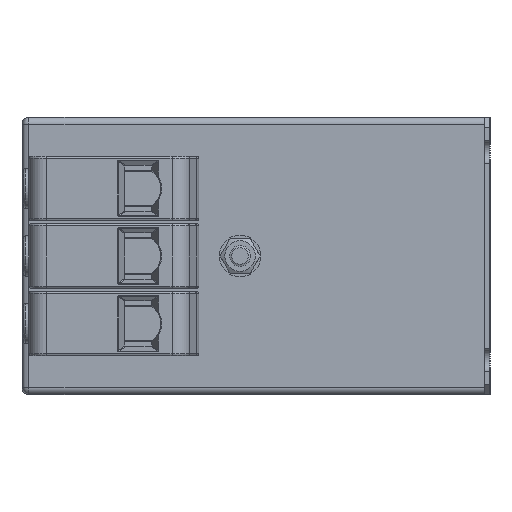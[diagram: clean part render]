
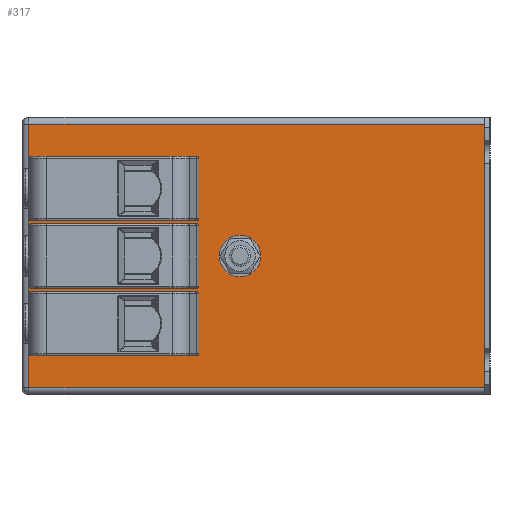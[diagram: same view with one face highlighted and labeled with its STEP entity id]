
A CAD part, left-side view. The second image highlights one B-rep face of the part: STEP entity #317.
In plain terms, the highlighted planar face has unit normal (-1, 0, 0).
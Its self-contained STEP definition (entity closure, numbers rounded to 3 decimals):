
#158=CARTESIAN_POINT('',(-120.0,72.1,5.525));
#159=VERTEX_POINT('',#158);
#160=CARTESIAN_POINT('',(-120.0,72.1,0.));
#161=DIRECTION('',(1.0,0.0,0.0));
#162=DIRECTION('',(0.0,0.0,1.0));
#163=AXIS2_PLACEMENT_3D('',#160,#161,#162);
#164=CIRCLE('',#163,5.525);
#165=EDGE_CURVE('',#159,#159,#164,.T.);
#173=CARTESIAN_POINT('',(-120.0,135.,0.0));
#174=DIRECTION('',(-1.0,0.0,0.0));
#175=DIRECTION('',(0.0,-1.0,0.0));
#176=AXIS2_PLACEMENT_3D('',#173,#174,#175);
#177=PLANE('',#176);
#178=CARTESIAN_POINT('',(-120.0,133.0,38.0));
#179=VERTEX_POINT('',#178);
#180=CARTESIAN_POINT('',(-120.0,1.5,38.0));
#181=VERTEX_POINT('',#180);
#182=CARTESIAN_POINT('',(-120.0,133.0,38.0));
#183=DIRECTION('',(0.0,-1.0,0.0));
#184=VECTOR('',#183,131.5);
#185=LINE('',#182,#184);
#186=EDGE_CURVE('',#179,#181,#185,.T.);
#187=ORIENTED_EDGE('',*,*,#186,.F.);
#188=CARTESIAN_POINT('',(-120.0,133.0,-38.0));
#189=VERTEX_POINT('',#188);
#190=CARTESIAN_POINT('',(-120.0,133.0,-38.0));
#191=DIRECTION('',(0.0,0.0,1.0));
#192=VECTOR('',#191,76.0);
#193=LINE('',#190,#192);
#194=EDGE_CURVE('',#189,#179,#193,.T.);
#195=ORIENTED_EDGE('',*,*,#194,.F.);
#196=CARTESIAN_POINT('',(-120.0,1.5,-38.0));
#197=VERTEX_POINT('',#196);
#198=CARTESIAN_POINT('',(-120.0,1.5,-38.0));
#199=DIRECTION('',(0.0,1.0,0.0));
#200=VECTOR('',#199,131.5);
#201=LINE('',#198,#200);
#202=EDGE_CURVE('',#197,#189,#201,.T.);
#203=ORIENTED_EDGE('',*,*,#202,.F.);
#204=CARTESIAN_POINT('',(-120.0,1.5,-38.0));
#205=DIRECTION('',(0.0,0.0,1.0));
#206=VECTOR('',#205,76.0);
#207=LINE('',#204,#206);
#208=EDGE_CURVE('',#197,#181,#207,.T.);
#209=ORIENTED_EDGE('',*,*,#208,.T.);
#210=EDGE_LOOP('',(#187,#195,#203,#209));
#211=FACE_OUTER_BOUND('',#210,.T.);
#212=CARTESIAN_POINT('',(-120.,84.5,-8.75));
#213=VERTEX_POINT('',#212);
#214=CARTESIAN_POINT('',(-120.,132.5,-8.75));
#215=VERTEX_POINT('',#214);
#216=CARTESIAN_POINT('',(-120.0,84.5,-8.75));
#217=DIRECTION('',(0.0,1.0,0.0));
#218=VECTOR('',#217,48.);
#219=LINE('',#216,#218);
#220=EDGE_CURVE('',#213,#215,#219,.T.);
#221=ORIENTED_EDGE('',*,*,#220,.T.);
#222=CARTESIAN_POINT('',(-120.,132.5,8.75));
#223=VERTEX_POINT('',#222);
#224=CARTESIAN_POINT('',(-120.0,132.5,-8.75));
#225=DIRECTION('',(0.0,0.0,1.0));
#226=VECTOR('',#225,17.5);
#227=LINE('',#224,#226);
#228=EDGE_CURVE('',#215,#223,#227,.T.);
#229=ORIENTED_EDGE('',*,*,#228,.T.);
#230=CARTESIAN_POINT('',(-120.,84.5,8.75));
#231=VERTEX_POINT('',#230);
#232=CARTESIAN_POINT('',(-120.0,132.5,8.75));
#233=DIRECTION('',(0.0,-1.0,0.0));
#234=VECTOR('',#233,48.);
#235=LINE('',#232,#234);
#236=EDGE_CURVE('',#223,#231,#235,.T.);
#237=ORIENTED_EDGE('',*,*,#236,.T.);
#238=CARTESIAN_POINT('',(-120.0,84.5,-8.75));
#239=DIRECTION('',(0.0,0.0,1.0));
#240=VECTOR('',#239,17.5);
#241=LINE('',#238,#240);
#242=EDGE_CURVE('',#213,#231,#241,.T.);
#243=ORIENTED_EDGE('',*,*,#242,.F.);
#244=EDGE_LOOP('',(#221,#229,#237,#243));
#245=FACE_BOUND('',#244,.T.);
#246=CARTESIAN_POINT('',(-120.,84.5,10.75));
#247=VERTEX_POINT('',#246);
#248=CARTESIAN_POINT('',(-120.,132.5,10.75));
#249=VERTEX_POINT('',#248);
#250=CARTESIAN_POINT('',(-120.0,84.5,10.75));
#251=DIRECTION('',(0.0,1.0,0.0));
#252=VECTOR('',#251,48.);
#253=LINE('',#250,#252);
#254=EDGE_CURVE('',#247,#249,#253,.T.);
#255=ORIENTED_EDGE('',*,*,#254,.T.);
#256=CARTESIAN_POINT('',(-120.,132.5,28.25));
#257=VERTEX_POINT('',#256);
#258=CARTESIAN_POINT('',(-120.0,132.5,10.75));
#259=DIRECTION('',(0.0,0.0,1.0));
#260=VECTOR('',#259,17.5);
#261=LINE('',#258,#260);
#262=EDGE_CURVE('',#249,#257,#261,.T.);
#263=ORIENTED_EDGE('',*,*,#262,.T.);
#264=CARTESIAN_POINT('',(-120.,84.5,28.25));
#265=VERTEX_POINT('',#264);
#266=CARTESIAN_POINT('',(-120.0,132.5,28.25));
#267=DIRECTION('',(0.0,-1.0,0.0));
#268=VECTOR('',#267,48.);
#269=LINE('',#266,#268);
#270=EDGE_CURVE('',#257,#265,#269,.T.);
#271=ORIENTED_EDGE('',*,*,#270,.T.);
#272=CARTESIAN_POINT('',(-120.0,84.5,10.75));
#273=DIRECTION('',(0.0,0.0,1.0));
#274=VECTOR('',#273,17.5);
#275=LINE('',#272,#274);
#276=EDGE_CURVE('',#247,#265,#275,.T.);
#277=ORIENTED_EDGE('',*,*,#276,.F.);
#278=EDGE_LOOP('',(#255,#263,#271,#277));
#279=FACE_BOUND('',#278,.T.);
#280=CARTESIAN_POINT('',(-120.,84.5,-28.25));
#281=VERTEX_POINT('',#280);
#282=CARTESIAN_POINT('',(-120.,132.5,-28.25));
#283=VERTEX_POINT('',#282);
#284=CARTESIAN_POINT('',(-120.0,84.5,-28.25));
#285=DIRECTION('',(0.0,1.0,0.0));
#286=VECTOR('',#285,48.);
#287=LINE('',#284,#286);
#288=EDGE_CURVE('',#281,#283,#287,.T.);
#289=ORIENTED_EDGE('',*,*,#288,.T.);
#290=CARTESIAN_POINT('',(-120.,132.5,-10.75));
#291=VERTEX_POINT('',#290);
#292=CARTESIAN_POINT('',(-120.0,132.5,-28.25));
#293=DIRECTION('',(0.0,0.0,1.0));
#294=VECTOR('',#293,17.5);
#295=LINE('',#292,#294);
#296=EDGE_CURVE('',#283,#291,#295,.T.);
#297=ORIENTED_EDGE('',*,*,#296,.T.);
#298=CARTESIAN_POINT('',(-120.,84.5,-10.75));
#299=VERTEX_POINT('',#298);
#300=CARTESIAN_POINT('',(-120.0,132.5,-10.75));
#301=DIRECTION('',(0.0,-1.0,0.0));
#302=VECTOR('',#301,48.);
#303=LINE('',#300,#302);
#304=EDGE_CURVE('',#291,#299,#303,.T.);
#305=ORIENTED_EDGE('',*,*,#304,.T.);
#306=CARTESIAN_POINT('',(-120.0,84.5,-28.25));
#307=DIRECTION('',(0.0,0.0,1.0));
#308=VECTOR('',#307,17.5);
#309=LINE('',#306,#308);
#310=EDGE_CURVE('',#281,#299,#309,.T.);
#311=ORIENTED_EDGE('',*,*,#310,.F.);
#312=EDGE_LOOP('',(#289,#297,#305,#311));
#313=FACE_BOUND('',#312,.T.);
#314=ORIENTED_EDGE('',*,*,#165,.T.);
#315=EDGE_LOOP('',(#314));
#316=FACE_BOUND('',#315,.T.);
#317=ADVANCED_FACE('',(#211,#245,#279,#313,#316),#177,.T.);
